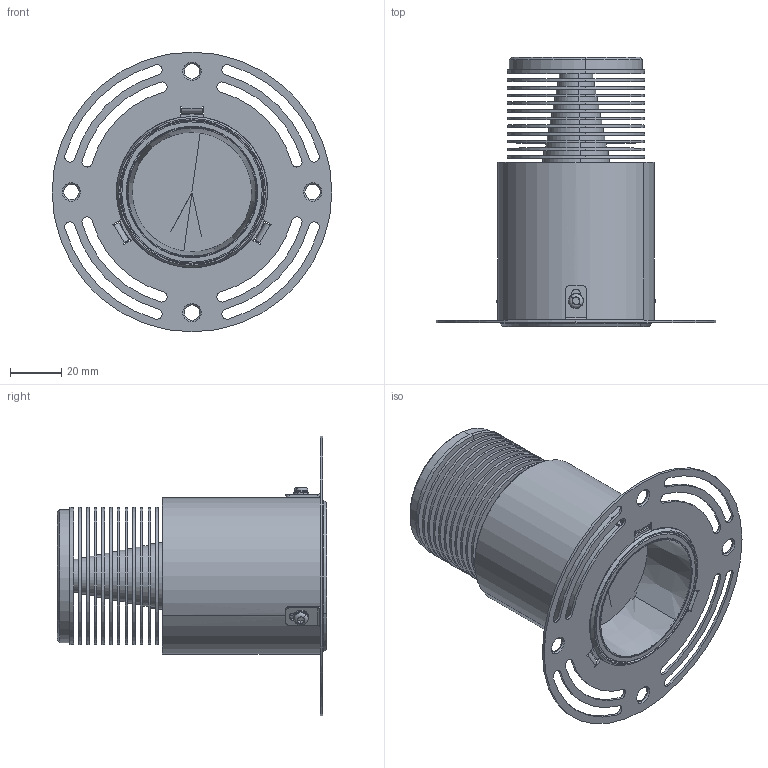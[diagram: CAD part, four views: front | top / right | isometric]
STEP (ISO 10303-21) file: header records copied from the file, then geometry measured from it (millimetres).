
FILE_DESCRIPTION (( 'STEP AP214' ), '1' );
FILE_NAME ('ASM SATURNO AF.STEP', '2024-02-05T07:15:31', ( '' ), ( '' ), 'SwSTEP 2.0', 'SolidWorks 2023', '' );
FILE_SCHEMA (( 'AUTOMOTIVE_DESIGN' ));
Length unit declared in the file: millimetre
Products named in the file (8): 105297--REV B; Rondella dentellata M3; 105260--REV D; 105258--; Modulo AF e AM; ASM  SATURNO AF; Vite M3x4 T_Bombata E_I_basse; 105261--REV A
Assembly tree (11 placements, depth 3):
  ASM  SATURNO AF
    105258--
      105261--REV A
      Vite M3x4 T_Bombata E_I_basse  x3
      Rondella dentellata M3  x3
      105260--REV D
    Modulo AF e AM
    105297--REV B
Bounding box: 109.2 x 105.3 x 109.2 mm (x, y, z)
Volume: 184346.3 mm3; surface area: 119876.8 mm2
Topology: 10 solids, 10 shells, 537 faces, 1439 edges, 909 vertices
Faces by surface type: plane 301, cylinder 192, cone 26, torus 18
Entity records: 11913 total; most frequent: CARTESIAN_POINT 2332, DIRECTION 2079, ORIENTED_EDGE 1890, EDGE_CURVE 945, AXIS2_PLACEMENT_3D 814, VERTEX_POINT 605, VECTOR 451, LINE 451
